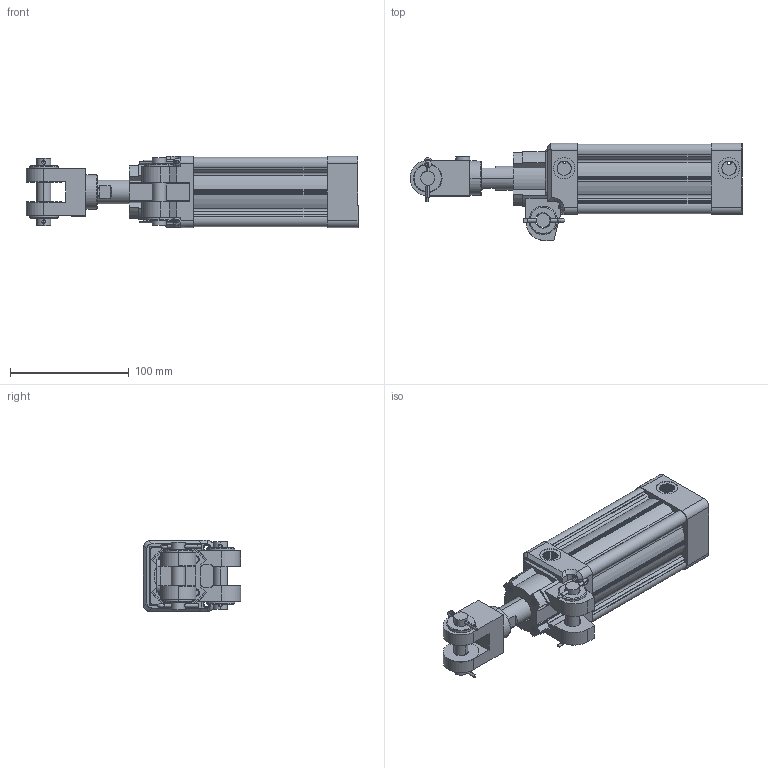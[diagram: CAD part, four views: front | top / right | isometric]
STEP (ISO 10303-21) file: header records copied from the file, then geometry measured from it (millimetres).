
FILE_DESCRIPTION(('CATIA V5 STEP Exchange'),'2;1');
FILE_NAME('D:\stp file for catalog\PNCCA\pncca 50\pncca 50-20-75.stp','2015-05-04T04:28:08+00:00',('none'),('none'),'Version 5-6 Release 2012','CATIA V5 STEP AP203','none');
FILE_SCHEMA(('CONFIG_CONTROL_DESIGN'));
Length unit declared in the file: millimetre
Products named in the file (3): pncca 50-20-75; PNCCA 50-20-50-01; PNCCA 50-20-50-02
Assembly tree (14 placements, depth 3):
  pncca 50-20-75
    PNCCA 50-20-50-01
      #66  x2
      #677
      #15023
      #39524
      #39784
      #40044
      #43520
    PNCCA 50-20-50-02
      #43882
      #46419
      #66  x2
Bounding box: 280 x 82 x 60 mm (x, y, z)
Volume: 424134.1 mm3; surface area: 164454.2 mm2
Topology: 13 solids, 13 shells, 1550 faces, 3994 edges, 2527 vertices
Faces by surface type: cone 587, cylinder 580, plane 341, torus 34, bspline 8
Entity records: 46761 total; most frequent: CARTESIAN_POINT 12296, ORIENTED_EDGE 7776, DIRECTION 5729, EDGE_CURVE 3888, AXIS2_PLACEMENT_3D 2855, VERTEX_POINT 2455, VECTOR 1682, LINE 1682
